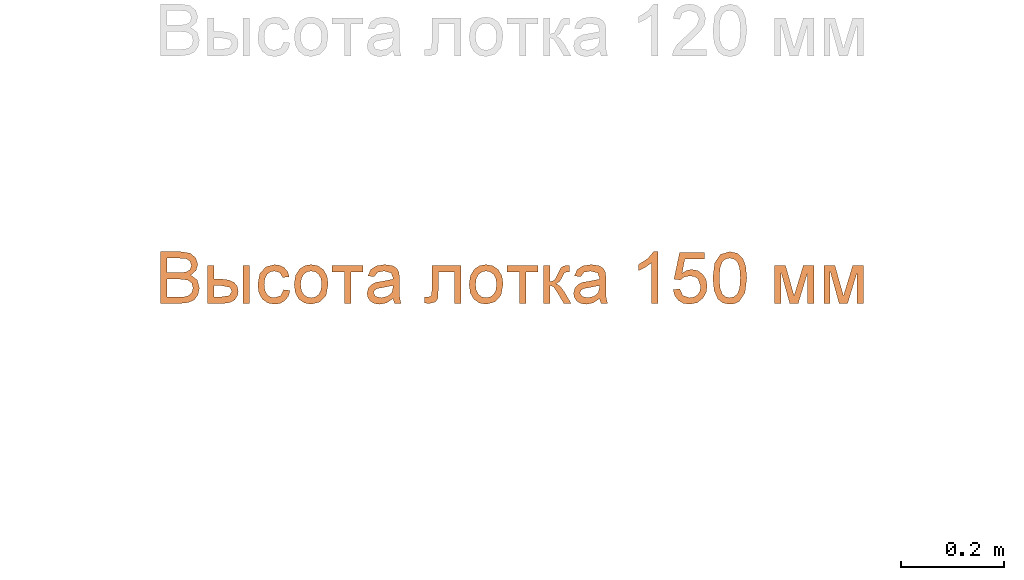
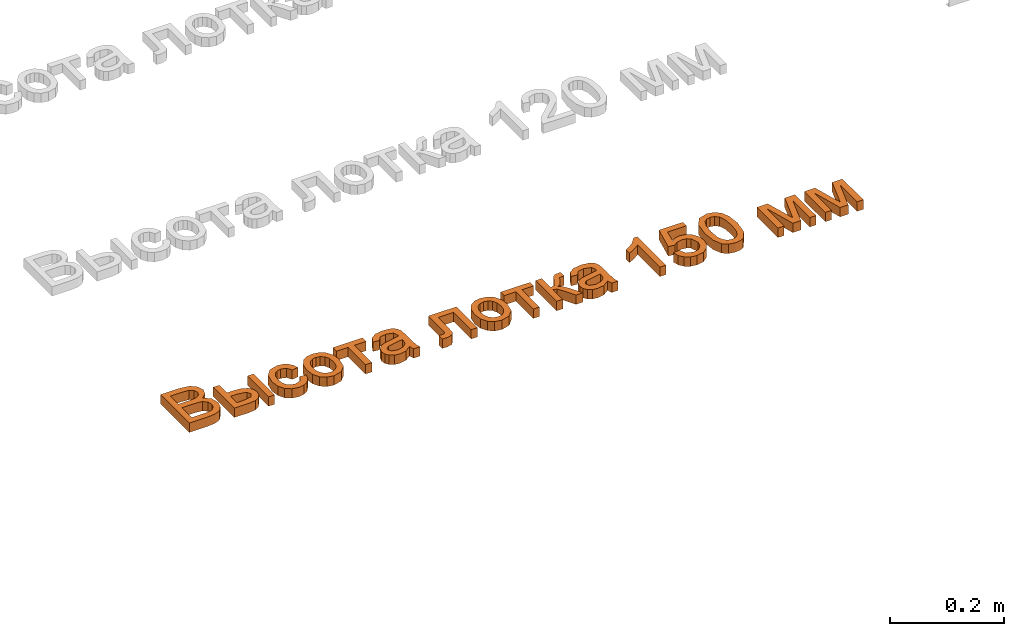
# One storey, part 15 of 71: 1 proxy.
"""IFC2X3 building model written with IfcOpenShell, lengths in millimetres."""

from ifc_helpers import new_model, entity, si_unit, converted_unit, derived_unit, direction, frame, frame_2d, origin, place, context, subcontext, project, spatial, polyline, rectangle, outline, extrude, element, save


model = new_model("IFC2X3")

# Units and contexts
model_context = context("Model", 3, precision=0.01, world=origin(), true_north=direction((6.12303176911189e-17, 1.0)))
body_context = subcontext(model_context, "Body", "Model", "MODEL_VIEW")
ifc_project = project(units=[si_unit("LENGTHUNIT", "METRE", prefix="MILLI"), si_unit("AREAUNIT", "SQUARE_METRE"), si_unit("VOLUMEUNIT", "CUBIC_METRE"), converted_unit("PLANEANGLEUNIT", "DEGREE", entity("IfcRatioMeasure", 0.0174532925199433), si_unit("PLANEANGLEUNIT", "RADIAN"), dimensions=[0, 0, 0, 0, 0, 0, 0]), si_unit("MASSUNIT", "GRAM", prefix="KILO"), derived_unit("MASSDENSITYUNIT", [(si_unit("MASSUNIT", "GRAM", prefix="KILO"), 1), (si_unit("LENGTHUNIT", "METRE"), -3)]), si_unit("TIMEUNIT", "SECOND"), si_unit("FREQUENCYUNIT", "HERTZ"), si_unit("THERMODYNAMICTEMPERATUREUNIT", "DEGREE_CELSIUS"), derived_unit("THERMALTRANSMITTANCEUNIT", [(si_unit("MASSUNIT", "GRAM", prefix="KILO"), 1), (si_unit("THERMODYNAMICTEMPERATUREUNIT", "KELVIN"), -1), (si_unit("TIMEUNIT", "SECOND"), -3)]), derived_unit("VOLUMETRICFLOWRATEUNIT", [(si_unit("LENGTHUNIT", "METRE"), 3), (si_unit("TIMEUNIT", "SECOND"), -1)]), si_unit("ELECTRICCURRENTUNIT", "AMPERE"), si_unit("ELECTRICVOLTAGEUNIT", "VOLT"), si_unit("POWERUNIT", "WATT"), si_unit("FORCEUNIT", "NEWTON", prefix="KILO"), si_unit("ILLUMINANCEUNIT", "LUX"), si_unit("LUMINOUSFLUXUNIT", "LUMEN"), si_unit("LUMINOUSINTENSITYUNIT", "CANDELA"), derived_unit("USERDEFINED", [(si_unit("MASSUNIT", "GRAM", prefix="KILO"), -1), (si_unit("LENGTHUNIT", "METRE"), -2), (si_unit("TIMEUNIT", "SECOND"), 3), (si_unit("LUMINOUSFLUXUNIT", "LUMEN"), 1)]), derived_unit("LINEARVELOCITYUNIT", [(si_unit("LENGTHUNIT", "METRE"), 1), (si_unit("TIMEUNIT", "SECOND"), -1)]), si_unit("PRESSUREUNIT", "PASCAL"), derived_unit("USERDEFINED", [(si_unit("LENGTHUNIT", "METRE"), -2), (si_unit("MASSUNIT", "GRAM", prefix="KILO"), 1), (si_unit("TIMEUNIT", "SECOND"), -2)])], contexts=[model_context])

# Site, building, storey
site_placement = place(None, origin())
site = spatial("IfcSite", under=ifc_project, at=site_placement, Name="Default", CompositionType="ELEMENT")
building_placement = place(site_placement, origin())
building = spatial("IfcBuilding", under=site, at=building_placement, Name="Наименование здания", CompositionType="ELEMENT")
storey_placement = place(building_placement, origin())
storey = spatial("IfcBuildingStorey", under=building, at=storey_placement, Name="Этаж 01", CompositionType="ELEMENT", Elevation=0.0)

# Proxy
proxy_placement = place(storey_placement, origin())
element("IfcBuildingElementProxy", 1, at=proxy_placement, inside=storey, Name="Текст модели:100 мм Arial", ObjectType="Текст модели:100 мм Arial", context=body_context, shape_type="SweptSolid", body=[
    extrude(outline(polyline([(-52.8068326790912, -48.6909338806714), (-14.7678343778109, -48.6909338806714), (1.33313427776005, -46.9618885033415), (12.2592295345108, -41.8605915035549), (19.5800812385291, -32.2466086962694), (22.5353999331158, -18.7453394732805), (18.2066551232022, -3.12261741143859), (5.83355735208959, 6.24611073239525), (16.0238886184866, 15.1365922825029), (19.3961402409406, 26.8720279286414), (15.3862264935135, 39.723372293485), (4.30071570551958, 48.810057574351), (-14.4735287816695, 51.7653762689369), (-52.8068326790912, 51.7653762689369), (-52.8068326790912, -48.6909338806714)]), holes=[polyline([(-40.2497939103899, 10.9550002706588), (-40.2497939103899, 39.2083375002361), (-19.0597909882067, 39.2083375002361), (-2.92203413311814, 37.8962250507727), (4.31297843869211, 33.0524454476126), (6.83910147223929, 24.8609396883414), (4.12903744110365, 16.6816966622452), (-3.92757825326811, 12.0341207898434), (-17.3184828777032, 10.9550002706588), (-40.2497939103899, 10.9550002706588)]), polyline([(-40.2497939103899, -36.1338951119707), (-40.2497939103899, -1.60203849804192), (-15.7243275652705, -1.60203849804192), (-0.211970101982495, -3.2820329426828), (7.57486546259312, -9.1068311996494), (9.97836116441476, -18.8679668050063), (7.93048472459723, -27.3292526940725), (2.70656039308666, -32.9087962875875), (-5.17837703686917, -35.6433857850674), (-14.4980542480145, -36.1338951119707), (-40.2497939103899, -36.1338951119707)])]), frame((1889.87567637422, -13417.8794073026, 0.0)), (0.0, 0.0, 1.0), 20.0),
    extrude(outline(polyline([(-42.3988715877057, -34.5139341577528), (31.3737311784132, -34.5139341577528), (31.3737311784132, -3.73447389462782), (29.6538828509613, 9.31613988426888), (24.4943378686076, 18.2526066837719), (16.9129030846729, 23.4121516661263), (7.92738535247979, 25.1319999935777), (-1.94104916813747, 23.0810578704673), (-9.424382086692, 16.9282315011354), (-14.1424686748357, 6.9862205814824), (-15.7151642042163, -6.43227519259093), (-15.7151642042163, -21.9568953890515), (-42.3988715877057, -21.9568953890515), (-42.3988715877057, -34.5139341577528)]), holes=[polyline([(18.8166924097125, -21.9568953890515), (-3.1581254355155, -21.9568953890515), (-3.1581254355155, -7.41329384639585), (0.226388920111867, 8.88387853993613), (7.95191081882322, 12.5749612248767), (16.1802047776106, 7.59629155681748), (18.8166924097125, -9.05650009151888), (18.8166924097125, -21.9568953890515)])]), frame((1962.62130892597, -13435.1966100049, 0.0), z_axis=(0.0, 0.0, 1.0), x_axis=(0.0, -1.0, 0.0)), (0.0, 0.0, 1.0), 20.0),
    extrude(outline(polyline([(0.267683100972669, -20.7200562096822), (-4.02278247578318, -32.6253015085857), (7.51957889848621, -34.5647704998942), (18.024291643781, -32.5240986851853), (26.8500141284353, -26.8719753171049), (33.3554047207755, -17.9770896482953), (37.2076783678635, -4.95154901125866), (35.3403176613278, 7.71415747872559), (27.6846262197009, 19.1676933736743), (14.1719076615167, 28.5567222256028), (-6.16200624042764, 34.5864889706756), (-23.4110955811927, 30.2307841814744), (-35.1302422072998, 17.0254849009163), (-38.571429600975, 6.87231136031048), (-38.3156698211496, -2.77330902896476), (-34.4593562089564, -11.5597521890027), (-27.0988821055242, -19.1353940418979), (-20.0099089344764, -8.65257858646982), (-25.7552259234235, 0.801697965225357), (-23.980662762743, 11.248312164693), (-18.9208808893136, 17.7794646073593), (-11.8538304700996, 21.4126833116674), (-2.81100512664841, 21.5312059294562), (8.17610151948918, 17.5182701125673), (18.046848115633, 10.9639331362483), (23.3470531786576, 3.65828147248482), (24.6053297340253, -4.07586677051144), (22.3502908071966, -11.9156934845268), (13.5558525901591, -20.7200562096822), (0.267683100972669, -20.7200562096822)])), frame((2057.30288009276, -13430.2595425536, 0.0), z_axis=(0.0, 0.0, -1.0), x_axis=(-0.45310996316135, -0.891454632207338, 0.0)), (0.0, 0.0, -1.0), 20.0),
    extrude(outline(polyline([(-2.34029740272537, -31.698490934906), (14.2731811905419, -31.698490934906), (27.1869525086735, -26.5873672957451), (35.9909592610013, -17.1811275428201), (40.2751441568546, -4.29577920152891), (38.1491713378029, 13.1690451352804), (27.2514955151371, 26.6485362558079), (5.67797919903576, 33.7446283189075), (-10.128054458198, 33.6081083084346), (-22.805938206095, 28.390056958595), (-31.638956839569, 18.9754531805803), (-35.9103951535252, 6.24927588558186), (-35.5406401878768, -5.97109031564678), (-30.8535887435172, -16.7835237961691), (-19.5870121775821, -26.569234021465), (-2.34029740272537, -31.698490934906)]), holes=[polyline([(-0.64294961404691, -19.2566729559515), (-11.6948097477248, -16.2599663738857), (-19.098900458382, -10.8341828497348), (-22.9822632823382, -3.6735675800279), (-23.4719397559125, 4.52763423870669), (-20.7783225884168, 12.2046648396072), (-15.0781786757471, 18.0357050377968), (-6.56600936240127, 21.2863283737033), (4.56368400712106, 21.2221083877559), (15.8675929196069, 18.1905150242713), (23.3961896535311, 12.747498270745), (27.3267847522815, 5.59272509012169), (27.836688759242, -2.57413755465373), (25.1317228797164, -10.3331599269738), (19.4311586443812, -16.1672368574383), (10.8134498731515, -19.3753979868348), (-0.64294961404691, -19.2566729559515)])]), frame((2127.77778019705, -13427.6561924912, 0.0), z_axis=(0.0, 0.0, 1.0), x_axis=(0.13710570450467, -0.990556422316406, 0.0)), (0.0, 0.0, 1.0), 20.0),
    extrude(outline(polyline([(-24.7216700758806, -29.8229670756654), (-12.1646313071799, -29.8229670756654), (-12.1646313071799, -6.27851938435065), (49.0509326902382, -6.27851938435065), (49.0509326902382, 6.27851938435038), (-12.1646313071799, 6.27851938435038), (-12.1646313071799, 29.8229670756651), (-24.7216700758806, 29.8229670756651), (-24.7216700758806, -29.8229670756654)])), frame((2199.65333814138, -13417.519408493, 0.0), z_axis=(0.0, 0.0, 1.0), x_axis=(0.0, -1.0, 0.0)), (0.0, 0.0, 1.0), 20.0),
    extrude(outline(polyline([(32.0508237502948, 7.88266535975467), (41.978034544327, 7.88266535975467), (45.9489188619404, 19.7953183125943), (35.1414436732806, 20.7608946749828), (14.243889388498, 27.0545912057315), (-0.577126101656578, 31.99492970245), (-11.1945882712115, 34.8877809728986), (-20.4974705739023, 33.9299602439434), (-28.5323068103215, 27.5470739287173), (-35.4619652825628, 13.8157249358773), (-38.304404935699, -2.6998964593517), (-34.9462156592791, -15.3493345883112), (-25.0306383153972, -24.380769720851), (-19.5706723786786, -12.9644773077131), (-25.7868125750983, -4.50695904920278), (-24.0611841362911, 8.309225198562), (-16.227994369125, 20.3304570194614), (-6.33956174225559, 20.6794605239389), (-3.71040200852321, 19.7255176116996), (-6.50243004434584, -2.30048133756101), (-8.14662433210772, -13.2049019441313), (-7.01817966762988, -22.8490321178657), (-2.17478658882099, -31.1204151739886), (6.48825595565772, -36.5416029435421), (15.0010331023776, -37.7020395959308), (22.9495879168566, -35.3200906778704), (29.637852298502, -29.3899394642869), (34.3697581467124, -19.9057692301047), (36.2737661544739, -6.36055543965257), (32.0508237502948, 7.88266535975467)]), holes=[polyline([(8.22551784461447, 15.8244339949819), (11.5759514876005, 14.6300664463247), (20.1614376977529, 9.67421668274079), (24.4696920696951, -0.396473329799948), (23.3024692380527, -13.3987927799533), (17.2491973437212, -22.9498553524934), (9.62153186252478, -24.3497471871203), (5.58084684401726, -21.1932043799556), (3.98706417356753, -15.5044472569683), (5.47226797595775, -4.61166010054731), (8.22551784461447, 15.8244339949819)])]), frame((2269.93909615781, -13429.2391985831, 0.0), z_axis=(0.0, 0.0, 1.0), x_axis=(0.316227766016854, -0.948683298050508, 0.0)), (0.0, 0.0, 1.0), 20.0),
    extrude(outline(polyline([(-49.3689973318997, 12.5447760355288), (-49.3689973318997, -43.9618984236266), (24.3300290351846, -43.9618984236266), (24.3300290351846, -31.4048596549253), (-36.811958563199, -31.4048596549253), (-36.811958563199, -0.0122627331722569), (-1.61791435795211, -0.0122627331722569), (14.6179443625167, 0.833865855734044), (21.4728122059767, 5.48144172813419), (24.4036054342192, 16.4688506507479), (23.7659433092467, 26.6714446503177), (11.8465666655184, 26.6714446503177), (11.8465666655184, 21.0551128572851), (11.0740144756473, 15.37746739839), (8.62146784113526, 13.1088617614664), (-2.32915288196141, 12.5447760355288), (-49.3689973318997, 12.5447760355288)])), frame((2375.43961817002, -13442.1667357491, 0.0), z_axis=(0.0, 0.0, -1.0), x_axis=(0.0, -1.0, 0.0)), (0.0, 0.0, -1.0), 20.0),
    extrude(outline(polyline([(-2.34029740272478, -31.6984909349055), (14.2731811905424, -31.6984909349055), (27.1869525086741, -26.5873672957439), (35.9909592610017, -17.1811275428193), (40.2751441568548, -4.29577920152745), (38.1491713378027, 13.1690451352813), (27.2514955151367, 26.6485362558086), (5.67797919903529, 33.7446283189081), (-10.1280544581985, 33.6081083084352), (-22.8059382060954, 28.3900569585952), (-31.6389568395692, 18.9754531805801), (-35.9103951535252, 6.24927588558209), (-35.5406401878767, -5.97109031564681), (-30.8535887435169, -16.7835237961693), (-19.5870121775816, -26.569234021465), (-2.34029740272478, -31.6984909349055)]), holes=[polyline([(-0.642949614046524, -19.256672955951), (-11.6948097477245, -16.2599663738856), (-19.0989004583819, -10.8341828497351), (-22.9822632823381, -3.67356758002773), (-23.4719397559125, 4.52763423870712), (-20.7783225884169, 12.2046648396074), (-15.0781786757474, 18.0357050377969), (-6.56600936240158, 21.2863283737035), (4.56368400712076, 21.2221083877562), (15.8675929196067, 18.1905150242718), (23.396189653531, 12.7474982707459), (27.3267847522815, 5.5927250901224), (27.8366887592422, -2.57413755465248), (25.1317228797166, -10.3331599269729), (19.4311586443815, -16.167236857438), (10.8134498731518, -19.3753979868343), (-0.642949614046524, -19.256672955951)])]), frame((2466.81782695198, -13427.6561924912, 0.0), z_axis=(0.0, 0.0, 1.0), x_axis=(0.137105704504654, -0.990556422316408, 0.0)), (0.0, 0.0, 1.0), 20.0),
    extrude(outline(polyline([(-24.7216700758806, -29.8229670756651), (-12.1646313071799, -29.8229670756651), (-12.1646313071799, -6.27851938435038), (49.0509326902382, -6.27851938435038), (49.0509326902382, 6.27851938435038), (-12.1646313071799, 6.27851938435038), (-12.1646313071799, 29.8229670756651), (-24.7216700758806, 29.8229670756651), (-24.7216700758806, -29.8229670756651)])), frame((2538.69338489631, -13417.519408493, 0.0), z_axis=(0.0, 0.0, 1.0), x_axis=(0.0, -1.0, 0.0)), (0.0, 0.0, 1.0), 20.0),
    extrude(outline(polyline([(-30.32957123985, -29.5353037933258), (43.4430315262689, -29.5353037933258), (43.4430315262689, -16.9782650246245), (8.91117491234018, -16.9782650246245), (11.2288314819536, -10.2337617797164), (20.8060260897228, -3.61188586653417), (43.4430315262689, 9.55828956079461), (43.4430315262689, 23.8321109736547), (20.3155167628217, 10.3921554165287), (10.0209522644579, 2.61758258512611), (5.13425309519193, -5.30414304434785), (0.756457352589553, 1.79597946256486), (-8.18307513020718, 6.86048826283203), (-16.448157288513, 11.1769703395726), (-17.7725324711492, 17.3083369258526), (-17.6989560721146, 20.6928512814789), (-30.32957123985, 20.6928512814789), (-30.32957123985, 18.2893555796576), (-29.3730780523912, 9.10456843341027), (-25.6819953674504, 4.05232236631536), (-14.3389671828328, -1.67437402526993), (-1.19331722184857, -8.56603006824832), (1.06302568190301, -16.9782650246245), (-30.32957123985, -16.9782650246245), (-30.32957123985, -29.5353037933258)])), frame((2609.03906468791, -13423.127309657, 0.0), z_axis=(0.0, 0.0, 1.0), x_axis=(0.0, -1.0, 0.0)), (0.0, 0.0, 1.0), 20.0),
    extrude(rectangle(XDim=73.7726027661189, YDim=12.5570387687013, at=frame_2d((1.08357767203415e-12, -2.70450328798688e-13), x_axis=(1.0, 0.0))), frame((2003.44960738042, -13429.6840398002, 0.0), z_axis=(0.0, 0.0, 1.0), x_axis=(0.0, -1.0, 0.0)), (0.0, 0.0, 1.0), 20.0),
    extrude(outline(polyline([(32.0508237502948, 7.88266535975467), (41.978034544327, 7.88266535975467), (45.9489188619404, 19.7953183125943), (35.1414436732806, 20.7608946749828), (14.243889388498, 27.0545912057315), (-0.577126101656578, 31.99492970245), (-11.1945882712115, 34.8877809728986), (-20.4974705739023, 33.9299602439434), (-28.5323068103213, 27.5470739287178), (-35.4619652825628, 13.8157249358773), (-38.3044049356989, -2.69989645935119), (-34.946215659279, -15.3493345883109), (-25.0306383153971, -24.3807697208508), (-19.5706723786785, -12.9644773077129), (-25.7868125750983, -4.50695904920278), (-24.0611841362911, 8.309225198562), (-16.2279943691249, 20.3304570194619), (-6.33956174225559, 20.6794605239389), (-3.71040200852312, 19.7255176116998), (-6.50243004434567, -2.3004813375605), (-8.14662433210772, -13.2049019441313), (-7.01817966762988, -22.8490321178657), (-2.17478658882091, -31.1204151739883), (6.48825595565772, -36.5416029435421), (15.0010331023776, -37.7020395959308), (22.9495879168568, -35.3200906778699), (29.637852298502, -29.3899394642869), (34.3697581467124, -19.9057692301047), (36.273766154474, -6.36055543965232), (32.0508237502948, 7.88266535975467)]), holes=[polyline([(8.22551784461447, 15.8244339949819), (11.5759514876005, 14.630066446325), (20.1614376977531, 9.6742166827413), (24.4696920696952, -0.396473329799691), (23.3024692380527, -13.3987927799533), (17.2491973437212, -22.9498553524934), (9.62153186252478, -24.3497471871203), (5.58084684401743, -21.1932043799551), (3.9870641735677, -15.5044472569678), (5.47226797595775, -4.61166010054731), (8.22551784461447, 15.8244339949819)])]), frame((2670.19470691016, -13429.2391985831, 0.0), z_axis=(0.0, 0.0, 1.0), x_axis=(0.316227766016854, -0.948683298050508, 0.0)), (0.0, 0.0, 1.0), 20.0),
    extrude(outline(polyline([(-63.8793021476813, -16.9184842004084), (36.577008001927, -16.9184842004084), (36.577008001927, -8.82508030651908), (23.2106288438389, 2.34626961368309), (11.4629304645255, 20.752632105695), (-0.407395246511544, 20.752632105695), (5.93243780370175, 7.53340574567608), (14.4059864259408, -4.36144543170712), (-63.8793021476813, -4.36144543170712), (-63.8793021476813, -16.9184842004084)])), frame((2783.90308499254, -13402.6910390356, 0.0), z_axis=(0.0, 0.0, 1.0), x_axis=(0.0, 1.0, 0.0)), (0.0, 0.0, 1.0), 20.0),
    extrude(outline(polyline([(3.81439562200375, -37.2548959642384), (15.7323946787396, -37.2548959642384), (26.1588137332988, -33.0579698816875), (34.2921694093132, -25.0537205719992), (39.330978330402, -13.6317508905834), (40.2219288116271, 1.43409098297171), (34.3991305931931, 14.6815107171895), (25.5350217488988, 23.1481891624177), (13.9054384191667, 28.2770976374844), (0.912111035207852, 29.470283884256), (-10.7159258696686, 25.7768606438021), (-19.7427074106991, 18.0989984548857), (-24.9322687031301, 7.3388678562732), (-25.5937300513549, -2.21124798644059), (-22.6370240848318, -12.2793380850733), (-47.9924930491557, 0.0204883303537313), (-38.0977082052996, 37.2324069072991), (-50.2330599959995, 40.4592412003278), (-62.7370428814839, -6.56524698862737), (-15.5021967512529, -30.4943712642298), (-10.7584434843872, -18.7623737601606), (-14.4216298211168, -10.492232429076), (-13.6981616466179, 0.722667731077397), (-9.98738154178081, 9.35727561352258), (-4.32553373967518, 14.6878856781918), (11.4370636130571, 15.9400687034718), (19.7481682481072, 12.2772427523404), (25.4355726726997, 6.40632241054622), (28.0665145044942, -1.27212018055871), (27.2082313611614, -10.357512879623), (19.6530635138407, -21.925631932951), (5.52431094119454, -24.7161898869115), (3.81439562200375, -37.2548959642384)])), frame((2865.66814764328, -13426.6267871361, 0.0), z_axis=(0.0, 0.0, 1.0), x_axis=(0.256974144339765, -0.96641827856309, 0.0)), (0.0, 0.0, 1.0), 20.0),
    extrude(outline(polyline([(-7.02884310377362, -33.3490673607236), (17.5323805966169, -33.3490673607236), (35.1984171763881, -27.6137612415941), (43.3439841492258, -18.4876517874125), (47.0516941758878, -5.75150665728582), (46.7162020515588, 4.48638208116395), (43.4465778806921, 13.0955287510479), (27.9444305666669, 25.6659118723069), (-0.314338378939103, 32.2325535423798), (-24.0296505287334, 32.3678288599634), (-39.414302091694, 28.0260881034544), (-49.7293680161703, 18.9002174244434), (-54.4436715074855, 4.63998875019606), (-50.867658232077, -14.130105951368), (-35.4058547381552, -26.7333390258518), (-7.02884310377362, -33.3490673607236)]), holes=[polyline([(-5.77428774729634, -20.8548320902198), (-25.0157644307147, -17.3562860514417), (-36.7257089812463, -11.5717922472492), (-41.096258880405, -4.77599682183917), (-41.9669219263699, 3.21464792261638), (-39.2244253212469, 11.2791292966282), (-32.8654063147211, 17.2229259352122), (-20.969837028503, 20.2947501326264), (-1.61768958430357, 19.7433141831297), (17.8514140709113, 16.2707701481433), (28.7803640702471, 10.7141596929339), (33.5546988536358, 3.61815959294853), (34.5599568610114, -4.472553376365), (31.9421230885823, -12.1923199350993), (25.8471825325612, -18.1754808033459), (14.0250679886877, -21.4027476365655), (-5.77428774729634, -20.8548320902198)])]), frame((2941.44793629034, -13420.7471642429, 0.0), z_axis=(0.0, 0.0, 1.0), x_axis=(0.101851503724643, -0.994799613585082, 0.0)), (0.0, 0.0, 1.0), 20.0),
    extrude(outline(polyline([(-40.5839870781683, -38.4502715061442), (33.1886156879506, -38.4502715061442), (33.1886156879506, -25.8932327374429), (-29.0570178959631, -25.8932327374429), (33.1886156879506, -8.62730443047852), (33.1886156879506, 7.85380895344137), (-26.2120637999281, 25.9045521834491), (33.1886156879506, 25.9045521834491), (33.1886156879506, 38.4615909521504), (-40.5839870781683, 38.4615909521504), (-40.5839870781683, 17.7620973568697), (18.4733358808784, -0.190544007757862), (-40.5839870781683, -16.8433356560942), (-40.5839870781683, -38.4502715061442)])), frame((3065.29853853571, -13433.3817254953, 0.0), z_axis=(0.0, 0.0, 1.0), x_axis=(0.0, -1.0, 0.0)), (0.0, 0.0, 1.0), 20.0),
    extrude(outline(polyline([(-40.5839870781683, -38.4502715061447), (33.1886156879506, -38.4502715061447), (33.1886156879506, -25.8932327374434), (-29.0570178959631, -25.8932327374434), (33.1886156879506, -8.6273044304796), (33.1886156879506, 7.85380895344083), (-26.2120637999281, 25.9045521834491), (33.1886156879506, 25.9045521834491), (33.1886156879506, 38.4615909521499), (-40.5839870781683, 38.4615909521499), (-40.5839870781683, 17.7620973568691), (18.4733358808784, -0.190544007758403), (-40.5839870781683, -16.8433356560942), (-40.5839870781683, -38.4502715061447)])), frame((3161.04595914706, -13433.3817254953, 0.0), z_axis=(0.0, 0.0, 1.0), x_axis=(0.0, -1.0, 0.0)), (0.0, 0.0, 1.0), 20.0),
])

save(model, "model.ifc")
